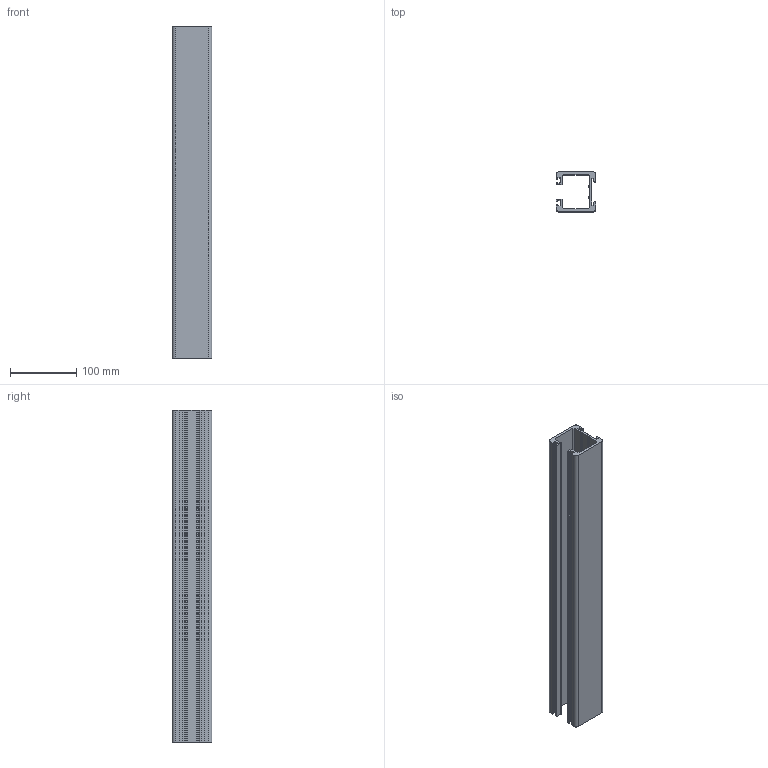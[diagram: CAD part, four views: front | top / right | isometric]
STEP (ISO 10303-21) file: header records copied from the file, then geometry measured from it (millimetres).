
FILE_DESCRIPTION (( 'STEP AP214' ), '1' );
FILE_NAME ('ALS XS Laufschiene.STEP', '2024-10-22T08:06:00', ( '' ), ( '' ), 'SwSTEP 2.0', 'SolidWorks 2024', '' );
FILE_SCHEMA (( 'AUTOMOTIVE_DESIGN' ));
Length unit declared in the file: millimetre
Products named in the file (1): ALS XS Laufschiene
Bounding box: 60 x 60 x 500 mm (x, y, z)
Volume: 480404.4 mm3; surface area: 235159.9 mm2
Topology: 1 solids, 1 shells, 76 faces, 222 edges, 148 vertices
Faces by surface type: plane 63, cylinder 13
Entity records: 2515 total; most frequent: CARTESIAN_POINT 447, ORIENTED_EDGE 444, DIRECTION 402, EDGE_CURVE 222, LINE 196, VECTOR 196, VERTEX_POINT 148, AXIS2_PLACEMENT_3D 103
